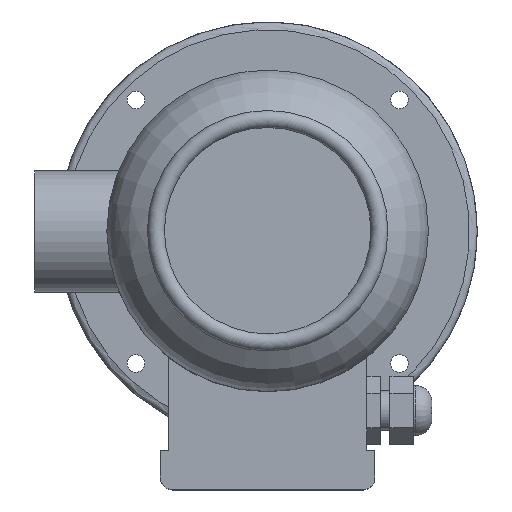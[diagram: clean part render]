
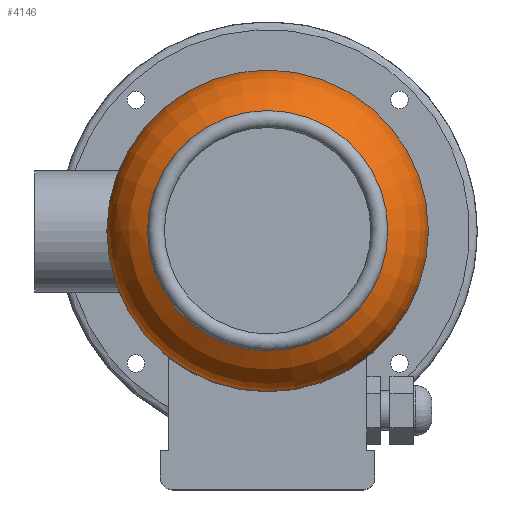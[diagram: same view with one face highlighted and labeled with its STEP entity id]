
A CAD part, top view. The second image highlights one B-rep face of the part: STEP entity #4146.
In plain terms, the highlighted toroidal (fillet/blend) face has major radius 37.539 mm and minor radius 32 mm.
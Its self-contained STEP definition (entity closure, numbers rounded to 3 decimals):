
#112=TOROIDAL_SURFACE('',#4466,37.539,32.);
#284=CIRCLE('',#4461,68.997);
#286=CIRCLE('',#4465,51.3);
#1977=ORIENTED_EDGE('',*,*,#2536,.T.);
#1978=ORIENTED_EDGE('',*,*,#2538,.T.);
#2536=EDGE_CURVE('',#2933,#2933,#284,.F.);
#2538=EDGE_CURVE('',#2935,#2935,#286,.T.);
#2933=VERTEX_POINT('',#9496);
#2935=VERTEX_POINT('',#9502);
#3437=EDGE_LOOP('',(#1977));
#3438=EDGE_LOOP('',(#1978));
#3790=FACE_BOUND('',#3437,.T.);
#3791=FACE_BOUND('',#3438,.T.);
#4146=ADVANCED_FACE('',(#3790,#3791),#112,.T.);
#4461=AXIS2_PLACEMENT_3D('',#9495,#5357,#5358);
#4465=AXIS2_PLACEMENT_3D('',#9501,#5365,#5366);
#4466=AXIS2_PLACEMENT_3D('',#9503,#5367,#5368);
#5357=DIRECTION('',(0.,0.,-1.));
#5358=DIRECTION('',(-1.,0.,0.));
#5365=DIRECTION('',(0.,0.,-1.));
#5366=DIRECTION('',(-1.,0.,0.));
#5367=DIRECTION('',(0.,0.,-1.));
#5368=DIRECTION('',(-1.,0.,0.));
#9495=CARTESIAN_POINT('',(0.,0.,355.558));
#9496=CARTESIAN_POINT('',(-68.997,0.,355.558));
#9501=CARTESIAN_POINT('',(0.,0.,378.586));
#9502=CARTESIAN_POINT('',(-51.3,0.,378.586));
#9503=CARTESIAN_POINT('',(0.,0.,349.696));
